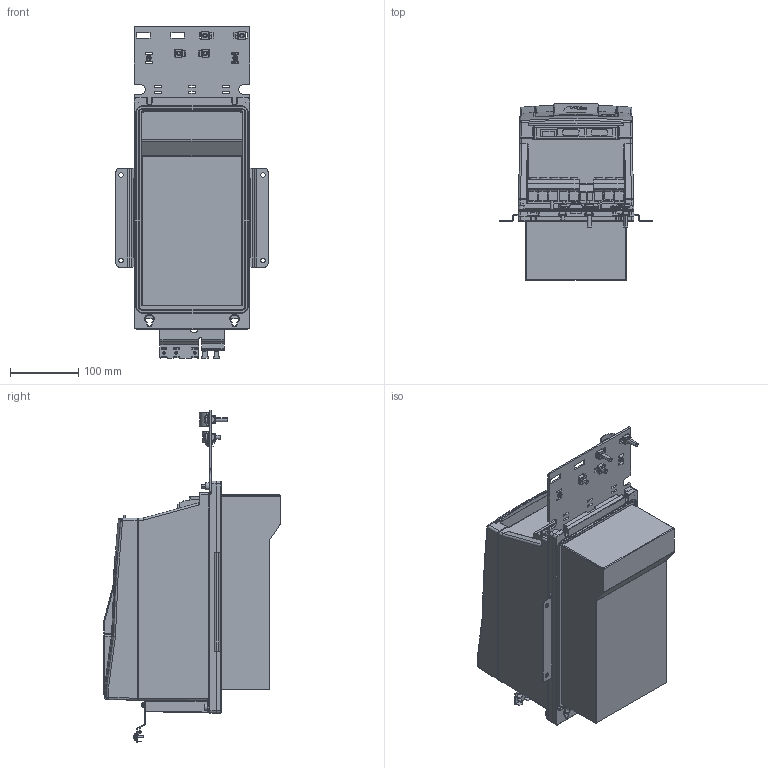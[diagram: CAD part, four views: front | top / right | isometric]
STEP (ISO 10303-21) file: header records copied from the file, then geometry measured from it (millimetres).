
FILE_DESCRIPTION (( 'STEP AP214' ), '1' );
FILE_NAME ('10051471_000.STEP', '2021-01-18T09:34:20', ( '' ), ( '' ), 'SwSTEP 2.0', 'SolidWorks 2019', '' );
FILE_SCHEMA (( 'AUTOMOTIVE_DESIGN' ));
Length unit declared in the file: millimetre
Products named in the file (15): 10061030_000_Kundenmodell; 10001531_000; 10060393_000; 10047114_000_Kundenmodell; 10059762_000_Kundenmodell mit Geberbuchsen; 10047094_000_Mit K„figmutterSM-FLAT-PATTERN; 10059765_000; 10063309_000; 10051470_000_Leistungsteil TR5 (Kundenmodell); 10051471_000; 10060358_000; 10040482_000_Kundenmodell; 10063222_000; 10059764_000_Blindabdeckung (Kundenmodell); 10051076_000_Kundenmodell
Assembly tree (15 placements, depth 4):
  10051471_000
    10051470_000_Leistungsteil TR5 (Kundenmodell)
      10060358_000
    10040482_000_Kundenmodell
      10060393_000
    10051076_000_Kundenmodell
      10059764_000_Blindabdeckung (Kundenmodell)
        10059765_000
      10059762_000_Kundenmodell mit Geberbuchsen
    10047114_000_Kundenmodell
      10047094_000_Mit K„figmutterSM-FLAT-PATTERN
      10063222_000
    10061030_000_Kundenmodell
      10063309_000
    10001531_000  x2
Bounding box: 223 x 258.4 x 486.8 mm (x, y, z)
Volume: 10655383 mm3; surface area: 739468.4 mm2
Topology: 21 solids, 28 shells, 3539 faces, 9344 edges, 5926 vertices
Faces by surface type: plane 1688, cylinder 1175, bspline 351, torus 130, cone 129, sphere 66
Entity records: 122105 total; most frequent: CARTESIAN_POINT 32804, ORIENTED_EDGE 18380, DIRECTION 16943, EDGE_CURVE 9190, VERTEX_POINT 5868, AXIS2_PLACEMENT_3D 5842, VECTOR 5259, LINE 5259
